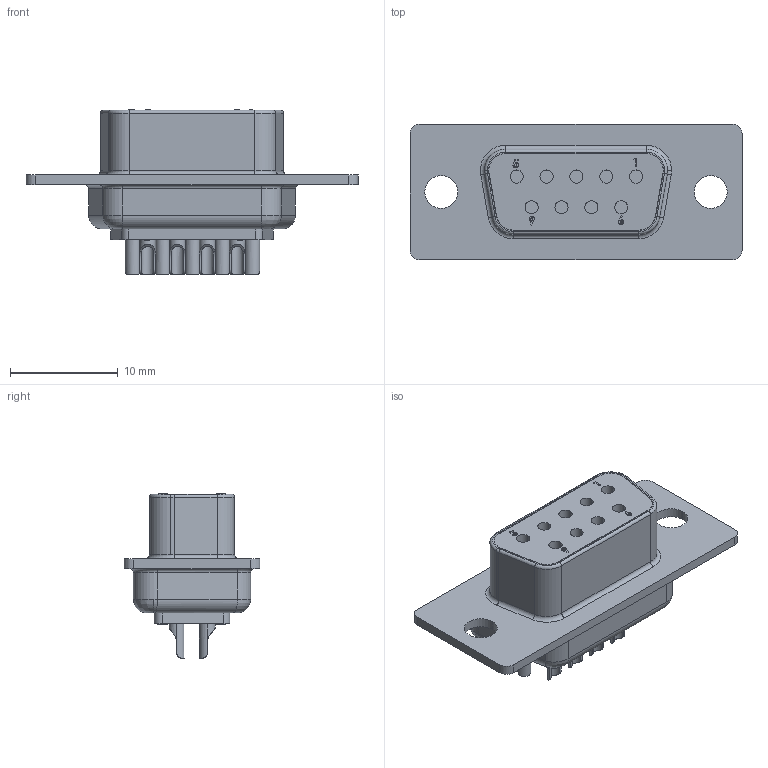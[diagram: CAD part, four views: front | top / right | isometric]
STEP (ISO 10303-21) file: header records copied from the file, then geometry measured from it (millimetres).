
FILE_DESCRIPTION(('FreeCAD Model'),'2;1');
FILE_NAME('C:/Users/Metaltex-99/Desktop/DBSF-09.stp', '2020-12-23T08:09:44',('Engenharia Metaltex'),('Metaltex'), 'Open CASCADE STEP processor 7.3','FreeCAD','Unknown');
FILE_SCHEMA(('AUTOMOTIVE_DESIGN { 1 0 10303 214 1 1 1 1 }'));
Length unit declared in the file: millimetre
Products named in the file (1): DBSF-09
Bounding box: 30.8 x 12.6 x 15.27 mm (x, y, z)
Volume: 1893.4 mm3; surface area: 2272.2 mm2
Topology: 1 solids, 1 shells, 352 faces, 860 edges, 550 vertices
Faces by surface type: cylinder 144, plane 140, bspline 48, torus 15, revolution 5
Entity records: 28868 total; most frequent: CARTESIAN_POINT 12357, DIRECTION 2802, ORIENTED_EDGE 1720, PCURVE 1720, DEFINITIONAL_REPRESENTATION 1720, LINE 1630, VECTOR 1630, EDGE_CURVE 860
